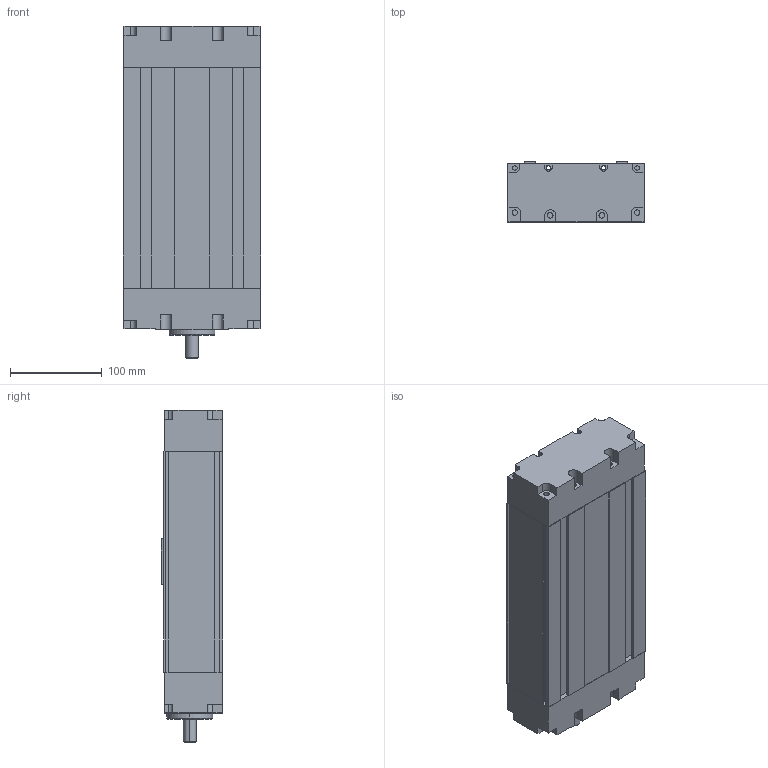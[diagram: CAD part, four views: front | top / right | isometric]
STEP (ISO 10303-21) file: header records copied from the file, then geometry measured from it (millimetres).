
FILE_DESCRIPTION (( 'STEP AP203' ), '1' );
FILE_NAME ('MSY150B-100-LL2010-P7.STEP', '2013-11-02T03:39:50', ( '微软用户' ), ( '微软中国' ), 'SwSTEP 2.0', 'SolidWorks 2010', '' );
FILE_SCHEMA (( 'CONFIG_CONTROL_DESIGN' ));
Length unit declared in the file: millimetre
Products named in the file (1): MSY150B-100-LL2010-P7
Bounding box: 150 x 67 x 361 mm (x, y, z)
Volume: 2749416.9 mm3; surface area: 315693.7 mm2
Topology: 1 solids, 1 shells, 309 faces, 837 edges, 538 vertices
Faces by surface type: plane 236, cylinder 61, cone 12
Entity records: 9622 total; most frequent: CARTESIAN_POINT 1677, ORIENTED_EDGE 1658, DIRECTION 1575, EDGE_CURVE 829, LINE 703, VECTOR 703, VERTEX_POINT 538, AXIS2_PLACEMENT_3D 436
